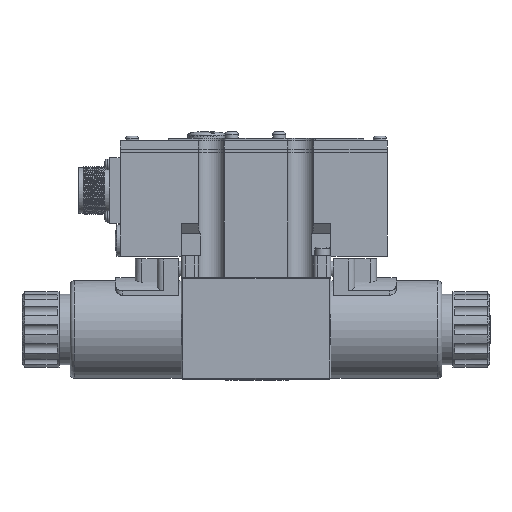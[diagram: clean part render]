
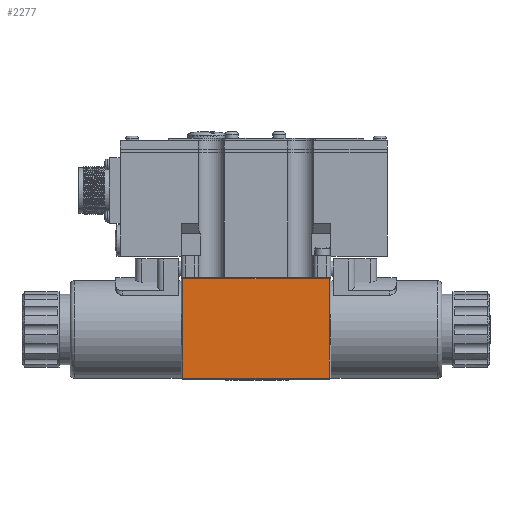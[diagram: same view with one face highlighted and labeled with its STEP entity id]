
A CAD part, front view. The second image highlights one B-rep face of the part: STEP entity #2277.
In plain terms, the highlighted planar face has unit normal (0, -1, 0).
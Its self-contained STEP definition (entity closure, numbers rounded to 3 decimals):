
#1536=FACE_OUTER_BOUND('',#6205,.T.);
#2277=ADVANCED_FACE('',(#1536),#3218,.T.);
#3218=PLANE('',#15493);
#3681=LINE('',#21535,#4572);
#3682=LINE('',#21538,#4573);
#3683=LINE('',#21540,#4574);
#3684=LINE('',#21542,#4575);
#4572=VECTOR('',#17175,1.);
#4573=VECTOR('',#17176,1.);
#4574=VECTOR('',#17177,1.);
#4575=VECTOR('',#17178,1.);
#6205=EDGE_LOOP('',(#7386,#7387,#7388,#7389));
#7386=ORIENTED_EDGE('',*,*,#12740,.T.);
#7387=ORIENTED_EDGE('',*,*,#12741,.T.);
#7388=ORIENTED_EDGE('',*,*,#12742,.T.);
#7389=ORIENTED_EDGE('',*,*,#12743,.T.);
#11412=VERTEX_POINT('',#21536);
#11413=VERTEX_POINT('',#21537);
#11414=VERTEX_POINT('',#21539);
#11415=VERTEX_POINT('',#21541);
#12740=EDGE_CURVE('',#11412,#11413,#3681,.T.);
#12741=EDGE_CURVE('',#11413,#11414,#3682,.T.);
#12742=EDGE_CURVE('',#11414,#11415,#3683,.T.);
#12743=EDGE_CURVE('',#11415,#11412,#3684,.T.);
#15493=AXIS2_PLACEMENT_3D('',#21543,#17179,#17180);
#17175=DIRECTION('',(0.,0.,-1.));
#17176=DIRECTION('',(1.,0.,0.));
#17177=DIRECTION('',(0.,0.,1.));
#17178=DIRECTION('',(-1.,0.,0.));
#17179=DIRECTION('',(0.,-1.,0.));
#17180=DIRECTION('',(0.,0.,1.));
#21535=CARTESIAN_POINT('',(0.7,-22.,-23.));
#21536=CARTESIAN_POINT('',(0.7,-22.,23.3));
#21537=CARTESIAN_POINT('',(0.7,-22.,-22.3));
#21538=CARTESIAN_POINT('',(34.5,-22.,-22.3));
#21539=CARTESIAN_POINT('',(68.3,-22.,-22.3));
#21540=CARTESIAN_POINT('',(68.3,-22.,-23.));
#21541=CARTESIAN_POINT('',(68.3,-22.,23.3));
#21542=CARTESIAN_POINT('',(34.5,-22.,23.3));
#21543=CARTESIAN_POINT('',(34.5,-22.,-23.));
